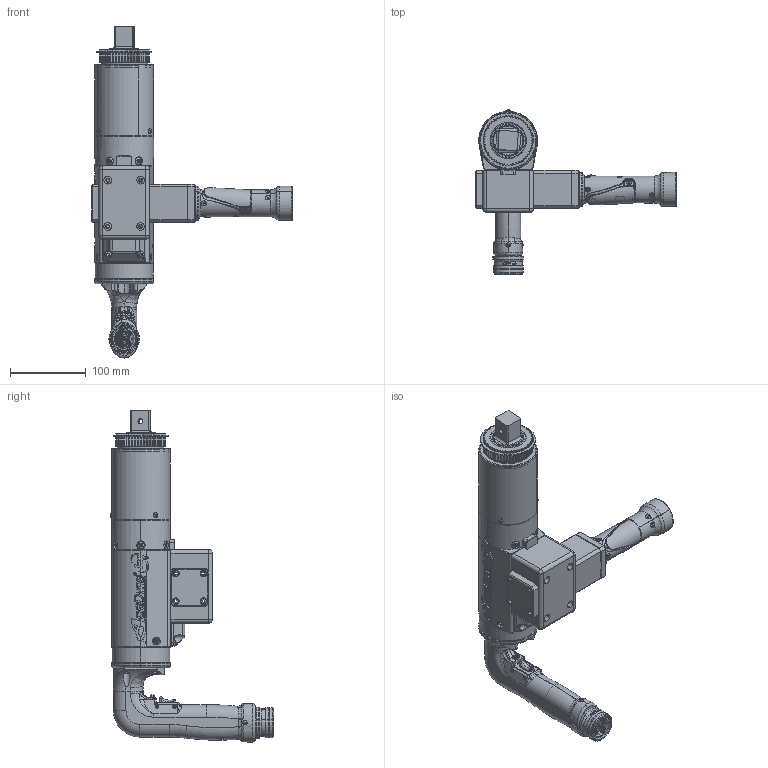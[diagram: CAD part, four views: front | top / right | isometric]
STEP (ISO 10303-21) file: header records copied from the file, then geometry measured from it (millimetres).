
FILE_DESCRIPTION (( 'STEP AP214' ), '1' );
FILE_NAME ('AED4B771000BDLL.STEP', '2022-07-25T17:18:46', ( '' ), ( '' ), 'SwSTEP 2.0', 'SolidWorks 2022', '' );
FILE_SCHEMA (( 'AUTOMOTIVE_DESIGN' ));
Length unit declared in the file: inch
Products named in the file (1): AED4B771000BDLL
Bounding box: 264.65 x 216.01 x 438.02 mm (x, y, z)
Surface area: 264553 mm2 (no closed solid volume)
Topology: 0 solids, 122 shells, 1636 faces, 6234 edges, 4487 vertices
Faces by surface type: cylinder 538, plane 442, bspline 259, torus 207, cone 174, sphere 16
Entity records: 149438 total; most frequent: CARTESIAN_POINT 80994, ORIENTED_EDGE 9527, DIRECTION 8696, EDGE_CURVE 6226, VERTEX_POINT 4487, AXIS2_PLACEMENT_3D 3297, LINE 2102, VECTOR 2102
